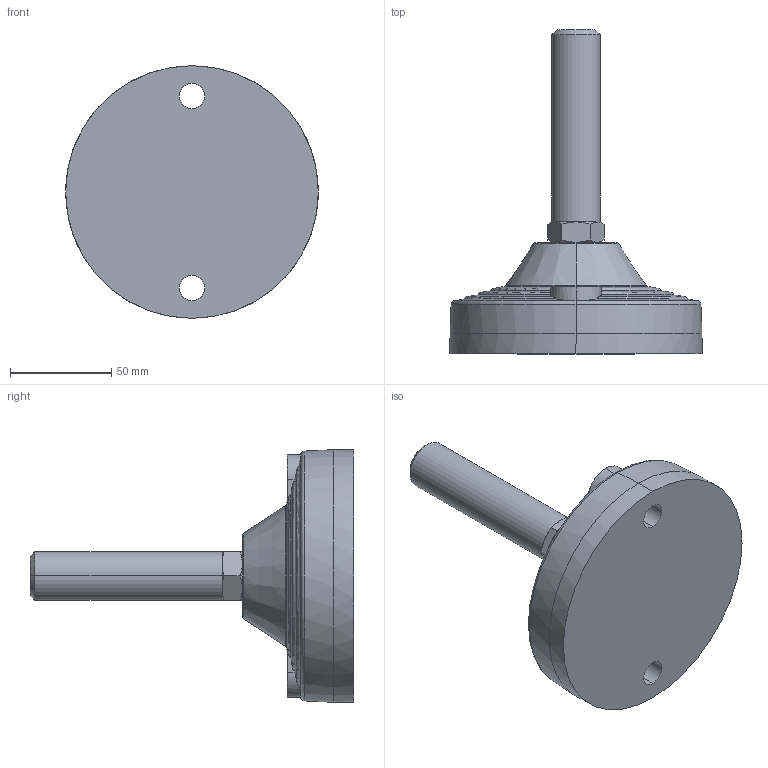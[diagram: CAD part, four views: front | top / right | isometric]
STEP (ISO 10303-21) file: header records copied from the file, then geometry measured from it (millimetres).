
FILE_DESCRIPTION (( 'STEP AP214' ), '1' );
FILE_NAME ('247-125-M24-95-AG.step', '2023-03-23T07:35:01', ( '' ), ( '' ), 'SwSTEP 2.0', 'SolidWorks 2022', '' );
FILE_SCHEMA (( 'AUTOMOTIVE_DESIGN' ));
Length unit declared in the file: millimetre
Products named in the file (3): 247-125-M24-95-AG; WB247_Stellfuß^WB247_AG; WB247_Spindel^WB247_M24-95
Assembly tree (2 placements, depth 2):
  247-125-M24-95-AG
    WB247_Stellfuß^WB247_AG
    WB247_Spindel^WB247_M24-95
Bounding box: 124.99 x 160.2 x 125 mm (x, y, z)
Volume: 458678.8 mm3; surface area: 54361.4 mm2
Topology: 2 solids, 2 shells, 112 faces, 274 edges, 173 vertices
Faces by surface type: cone 35, plane 35, cylinder 30, torus 12
Entity records: 3812 total; most frequent: CARTESIAN_POINT 1016, DIRECTION 557, ORIENTED_EDGE 548, EDGE_CURVE 274, AXIS2_PLACEMENT_3D 236, VERTEX_POINT 173, EDGE_LOOP 123, CIRCLE 119
